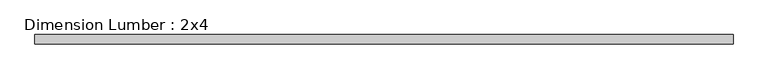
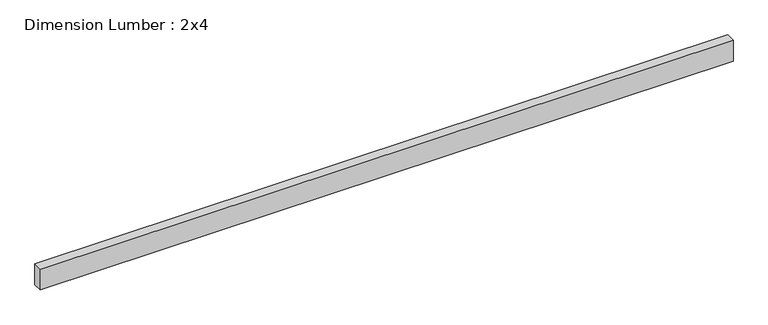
"""IFC4 building model written with IfcOpenShell, lengths in millimetres: beam geometry, Dimension Lumber : 2x4."""

from ifc_helpers import new_model, si_unit, frame, origin, place, context, project, spatial, polyline, outline, extrude, source, transform, mapped, element, save


def dimension_lumber_2x4_e43dbc30(model_context):
    return source(origin(), model_context, "Body", "SweptSolid", [
        extrude(outline(polyline([(1402.08, 19.05), (1402.08, -19.05), (-1402.08, -19.05), (-1402.08, 19.05), (1402.08, 19.05)])), frame((0.0, 0.0, -44.45), z_axis=(0.0, 0.0, 1.0), x_axis=(1.0, 0.0, 0.0)), (0.0, 0.0, 1.0), 88.9),
    ])


if __name__ == "__main__":
    model = new_model("IFC4")
    model_context = context("Model", 3, world=origin())
    ifc_project = project(units=[si_unit("LENGTHUNIT", "METRE", prefix="MILLI")], contexts=[model_context])
    site = spatial("IfcSite", under=ifc_project)
    building = spatial("IfcBuilding", under=site)
    placement = place(None, origin())
    dimension_lumber_2x4_shape = dimension_lumber_2x4_e43dbc30(model_context)
    element("IfcBeam", 1, ObjectType="Dimension Lumber : 2x4", at=placement, inside=building, context=model_context, shape_type="MappedRepresentation", body=[
        mapped(dimension_lumber_2x4_shape, transform((0.0, 0.0, 0.0), x_axis=(1.0, 0.0, 0.0), y_axis=(0.0, 1.0, 0.0), z_axis=(0.0, 0.0, 1.0))),
    ])
    save(model, "model.ifc")
